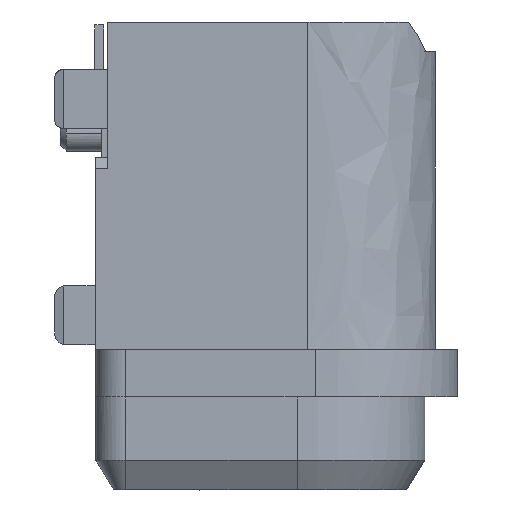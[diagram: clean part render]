
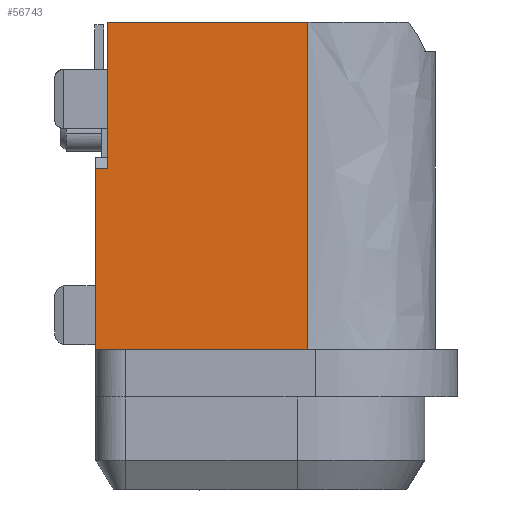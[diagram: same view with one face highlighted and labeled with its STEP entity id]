
A CAD part, left-side view. The second image highlights one B-rep face of the part: STEP entity #56743.
In plain terms, the highlighted free-form (B-spline) face has degree [1, 1] with [2, 2] control points.
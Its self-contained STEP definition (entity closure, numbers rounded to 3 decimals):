
#888 = EDGE_CURVE ( 'NONE', #57438, #6848, #5276, .T. ) ;
#2068 = EDGE_CURVE ( 'NONE', #49668, #52699, #27727, .T. ) ;
#3535 = CARTESIAN_POINT ( 'NONE',  ( -0.335, 0.44, -3.75 ) ) ;
#3690 = CARTESIAN_POINT ( 'NONE',  ( -0.335, 0.44, -9.28 ) ) ;
#3914 = VERTEX_POINT ( 'NONE', #5165 ) ;
#5165 = CARTESIAN_POINT ( 'NONE',  ( -0.335, 3.82, -6.23 ) ) ;
#5276 = B_SPLINE_CURVE_WITH_KNOTS ( 'NONE', 1,
 ( #59075, #42037 ),
 .UNSPECIFIED., .F., .F.,
 ( 2, 2 ),
 ( 0., 1. ),
 .UNSPECIFIED. ) ;
#5997 = B_SPLINE_CURVE_WITH_KNOTS ( 'NONE', 1,
 ( #52015, #55844 ),
 .UNSPECIFIED., .F., .F.,
 ( 2, 2 ),
 ( 0., 1. ),
 .UNSPECIFIED. ) ;
#6848 = VERTEX_POINT ( 'NONE', #3535 ) ;
#7943 = CARTESIAN_POINT ( 'NONE',  ( -0.335, 3.82, -6.23 ) ) ;
#10310 = CARTESIAN_POINT ( 'NONE',  ( -0.335, 4.02, -9.28 ) ) ;
#10907 = ORIENTED_EDGE ( 'NONE', *, *, #888, .F. ) ;
#11075 = CARTESIAN_POINT ( 'NONE',  ( -0.335, 4.02, -6.23 ) ) ;
#14060 = CARTESIAN_POINT ( 'NONE',  ( -0.335, 4.02, -9.28 ) ) ;
#15294 = CARTESIAN_POINT ( 'NONE',  ( -0.335, 0.44, -9.28 ) ) ;
#16807 = CARTESIAN_POINT ( 'NONE',  ( -0.335, 0.44, -3.75 ) ) ;
#17728 = VERTEX_POINT ( 'NONE', #11075 ) ;
#18737 = B_SPLINE_CURVE_WITH_KNOTS ( 'NONE', 1,
 ( #16807, #22294 ),
 .UNSPECIFIED., .F., .F.,
 ( 2, 2 ),
 ( 0., 1. ),
 .UNSPECIFIED. ) ;
#19842 = CARTESIAN_POINT ( 'NONE',  ( -0.335, 0.368, -3.639 ) ) ;
#21693 = CARTESIAN_POINT ( 'NONE',  ( -0.335, 4.02, -6.23 ) ) ;
#22294 = CARTESIAN_POINT ( 'NONE',  ( -0.335, 0.44, -9.28 ) ) ;
#24366 = EDGE_CURVE ( 'NONE', #17728, #52699, #58000, .T. ) ;
#26378 = FACE_OUTER_BOUND ( 'NONE', #28255, .T. ) ;
#27147 = ORIENTED_EDGE ( 'NONE', *, *, #65690, .F. ) ;
#27727 = B_SPLINE_CURVE_WITH_KNOTS ( 'NONE', 1,
 ( #3690, #14060 ),
 .UNSPECIFIED., .F., .F.,
 ( 2, 2 ),
 ( 0., 1. ),
 .UNSPECIFIED. ) ;
#28255 = EDGE_LOOP ( 'NONE', ( #10907, #27147, #65669, #45189, #30275, #59889 ) ) ;
#28963 = B_SPLINE_SURFACE_WITH_KNOTS ( 'NONE', 1, 1, ( 
 ( #46144, #57161 ),
 ( #19842, #46829 ) ),
 .UNSPECIFIED., .F., .F., .F.,
 ( 2, 2 ),
 ( 2, 2 ),
 ( -0.072, 3.652 ),
 ( -0.111, 5.641 ),
 .UNSPECIFIED. ) ;
#30275 = ORIENTED_EDGE ( 'NONE', *, *, #2068, .F. ) ;
#33815 = EDGE_CURVE ( 'NONE', #17728, #3914, #5997, .T. ) ;
#38854 = B_SPLINE_CURVE_WITH_KNOTS ( 'NONE', 1,
 ( #7943, #50411 ),
 .UNSPECIFIED., .F., .F.,
 ( 2, 2 ),
 ( 0., 1. ),
 .UNSPECIFIED. ) ;
#39097 = CARTESIAN_POINT ( 'NONE',  ( -0.335, 4.02, -9.28 ) ) ;
#42037 = CARTESIAN_POINT ( 'NONE',  ( -0.335, 0.44, -3.75 ) ) ;
#45189 = ORIENTED_EDGE ( 'NONE', *, *, #24366, .T. ) ;
#46144 = CARTESIAN_POINT ( 'NONE',  ( -0.335, 4.092, -3.639 ) ) ;
#46829 = CARTESIAN_POINT ( 'NONE',  ( -0.335, 0.368, -9.391 ) ) ;
#49668 = VERTEX_POINT ( 'NONE', #15294 ) ;
#49802 = CARTESIAN_POINT ( 'NONE',  ( -0.335, 3.82, -3.75 ) ) ;
#50411 = CARTESIAN_POINT ( 'NONE',  ( -0.335, 3.82, -3.75 ) ) ;
#52015 = CARTESIAN_POINT ( 'NONE',  ( -0.335, 4.02, -6.23 ) ) ;
#52699 = VERTEX_POINT ( 'NONE', #39097 ) ;
#55844 = CARTESIAN_POINT ( 'NONE',  ( -0.335, 3.82, -6.23 ) ) ;
#56743 = ADVANCED_FACE ( 'NONE', ( #26378 ), #28963, .F. ) ;
#57161 = CARTESIAN_POINT ( 'NONE',  ( -0.335, 4.092, -9.391 ) ) ;
#57438 = VERTEX_POINT ( 'NONE', #49802 ) ;
#58000 = B_SPLINE_CURVE_WITH_KNOTS ( 'NONE', 1,
 ( #21693, #10310 ),
 .UNSPECIFIED., .F., .F.,
 ( 2, 2 ),
 ( 0., 1. ),
 .UNSPECIFIED. ) ;
#59075 = CARTESIAN_POINT ( 'NONE',  ( -0.335, 3.82, -3.75 ) ) ;
#59889 = ORIENTED_EDGE ( 'NONE', *, *, #63776, .F. ) ;
#63776 = EDGE_CURVE ( 'NONE', #6848, #49668, #18737, .T. ) ;
#65669 = ORIENTED_EDGE ( 'NONE', *, *, #33815, .F. ) ;
#65690 = EDGE_CURVE ( 'NONE', #3914, #57438, #38854, .T. ) ;
